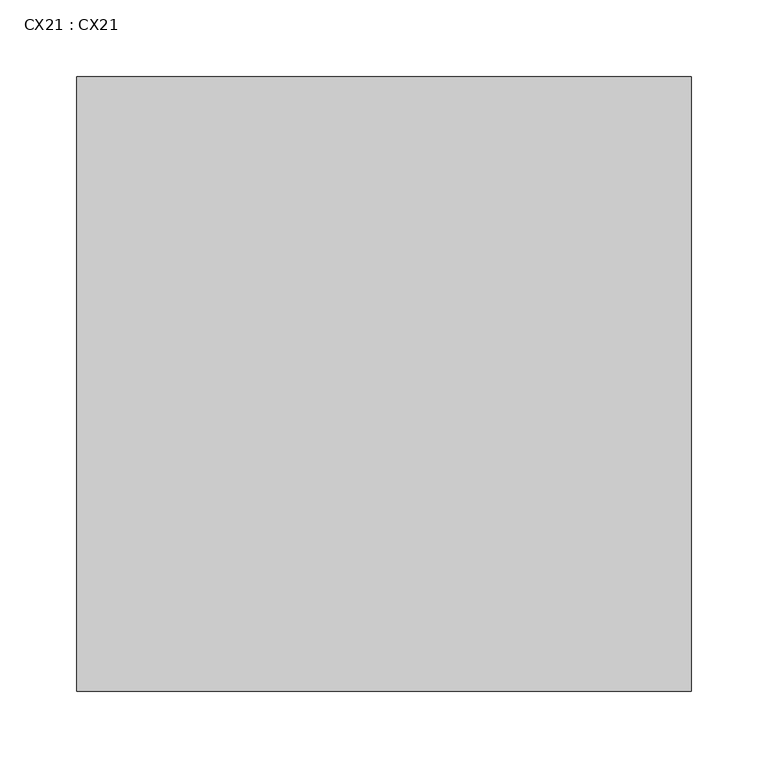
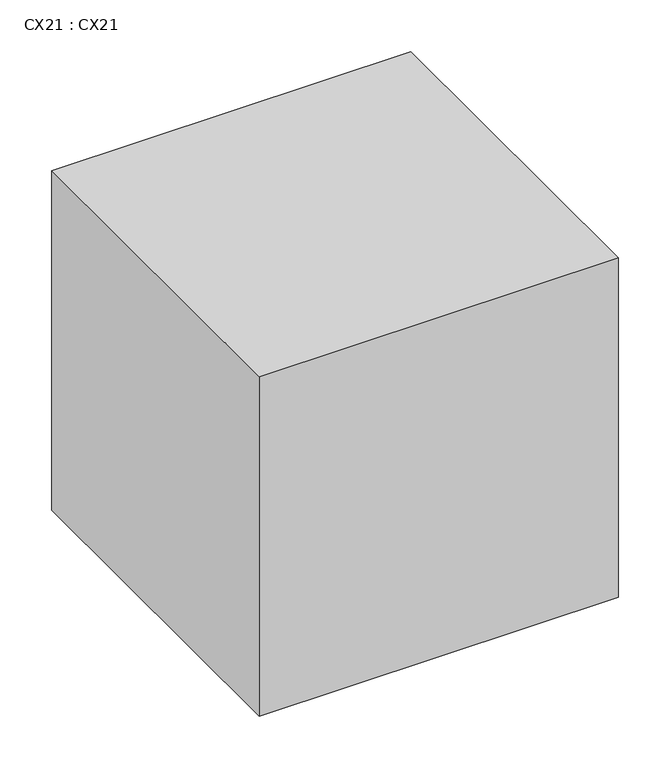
"""IFC4 building model written with IfcOpenShell, lengths in millimetres: proxy geometry, CX21 : CX21."""

from ifc_helpers import new_model, si_unit, frame, origin, place, context, project, spatial, polyline, outline, extrude, source, transform, mapped, element, save


def cx21_cx21_0a1fef81(model_context):
    return source(origin(), model_context, "Body", "SweptSolid", [
        extrude(outline(polyline([(9219.11, 22761.1), (9219.11, 22361.1), (8819.11, 22361.1), (8819.11, 22761.1), (9219.11, 22761.1)])), frame((0.0, 0.0, -370.0), z_axis=(0.0, 0.0, 1.0), x_axis=(1.0, 0.0, 0.0)), (0.0, 0.0, 1.0), 400.0),
    ])


if __name__ == "__main__":
    model = new_model("IFC4")
    model_context = context("Model", 3, world=origin())
    ifc_project = project(units=[si_unit("LENGTHUNIT", "METRE", prefix="MILLI")], contexts=[model_context])
    site = spatial("IfcSite", under=ifc_project)
    building = spatial("IfcBuilding", under=site)
    placement = place(None, origin())
    cx21_cx21_shape = cx21_cx21_0a1fef81(model_context)
    element("IfcBuildingElementProxy", 1, Name="CX21 : CX21", ObjectType="CX21 : CX21", at=placement, inside=building, context=model_context, shape_type="MappedRepresentation", body=[
        mapped(cx21_cx21_shape, transform((0.0, 0.0, 0.0), x_axis=(1.0, 0.0, 0.0), y_axis=(0.0, 1.0, 0.0), z_axis=(0.0, 0.0, 1.0))),
    ])
    save(model, "model.ifc")
